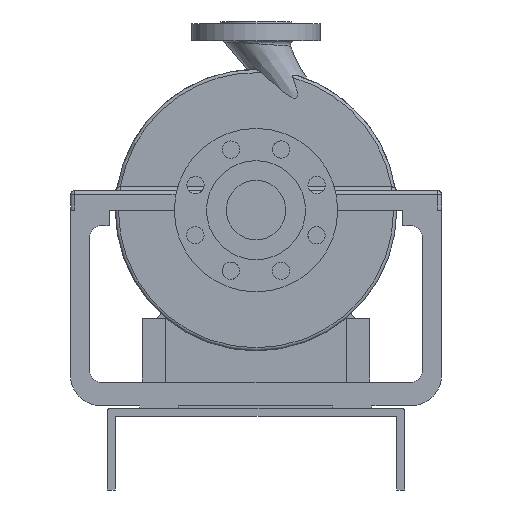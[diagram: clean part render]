
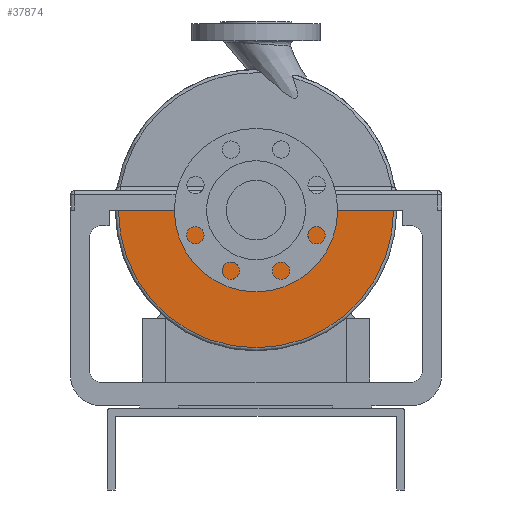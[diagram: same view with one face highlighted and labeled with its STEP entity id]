
A CAD part, front view. The second image highlights one B-rep face of the part: STEP entity #37874.
In plain terms, the highlighted planar face has unit normal (0, -1, 0).
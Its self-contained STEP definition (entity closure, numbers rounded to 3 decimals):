
#859=LINE('',#50231,#3440);
#865=LINE('',#50252,#3446);
#3440=VECTOR('',#42233,1000.);
#3446=VECTOR('',#42249,1000.);
#6094=ORIENTED_EDGE('',*,*,#14186,.T.);
#6095=ORIENTED_EDGE('',*,*,#14120,.F.);
#6096=ORIENTED_EDGE('',*,*,#14187,.T.);
#6097=ORIENTED_EDGE('',*,*,#14130,.F.);
#14120=EDGE_CURVE('',#18168,#18169,#859,.T.);
#14130=EDGE_CURVE('',#18178,#18179,#865,.T.);
#14186=EDGE_CURVE('',#18178,#18169,#20688,.T.);
#14187=EDGE_CURVE('',#18168,#18179,#20689,.F.);
#18168=VERTEX_POINT('',#50230);
#18169=VERTEX_POINT('',#50232);
#18178=VERTEX_POINT('',#50251);
#18179=VERTEX_POINT('',#50253);
#20688=CIRCLE('',#39575,176.5);
#20689=CIRCLE('',#39576,67.071);
#21805=EDGE_LOOP('',(#6094,#6095,#6096,#6097));
#23565=FACE_BOUND('',#21805,.T.);
#25286=PLANE('',#39574);
#37874=ADVANCED_FACE('',(#23565),#25286,.T.);
#39574=AXIS2_PLACEMENT_3D('',#50667,#42362,#42363);
#39575=AXIS2_PLACEMENT_3D('',#50668,#42364,#42365);
#39576=AXIS2_PLACEMENT_3D('',#50669,#42366,#42367);
#42233=DIRECTION('',(1.,0.,0.));
#42249=DIRECTION('',(1.,0.,0.));
#42362=DIRECTION('',(0.,-1.,0.));
#42363=DIRECTION('',(1.,0.,0.));
#42364=DIRECTION('',(0.,-1.,0.));
#42365=DIRECTION('',(1.,0.,0.));
#42366=DIRECTION('',(0.,-1.,0.));
#42367=DIRECTION('',(1.,0.,0.));
#50230=CARTESIAN_POINT('',(67.071,-28.,0.));
#50231=CARTESIAN_POINT('',(0.,-28.,0.));
#50232=CARTESIAN_POINT('',(176.5,-28.,0.));
#50251=CARTESIAN_POINT('',(-176.5,-28.,0.));
#50252=CARTESIAN_POINT('',(0.,-28.,0.));
#50253=CARTESIAN_POINT('',(-67.071,-28.,0.));
#50667=CARTESIAN_POINT('',(0.,-28.,65.));
#50668=CARTESIAN_POINT('',(0.,-28.,0.));
#50669=CARTESIAN_POINT('',(0.,-28.,0.));
